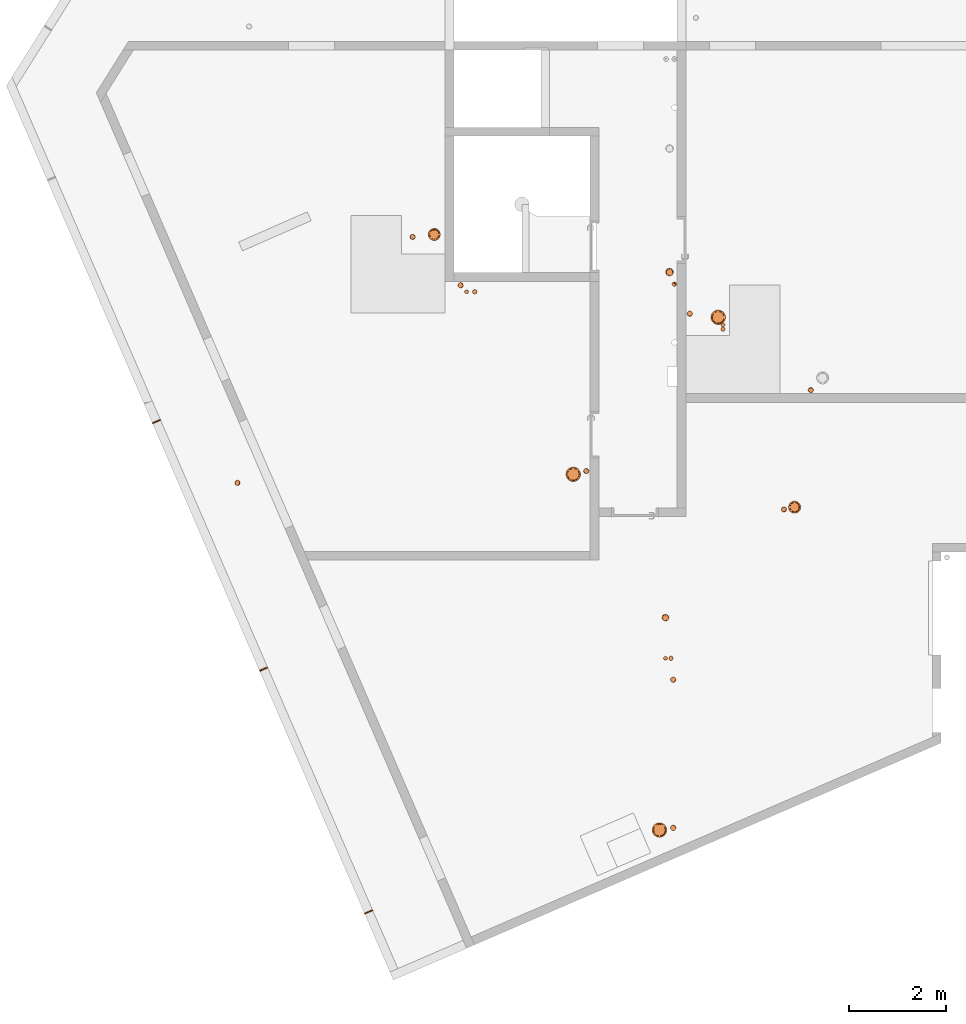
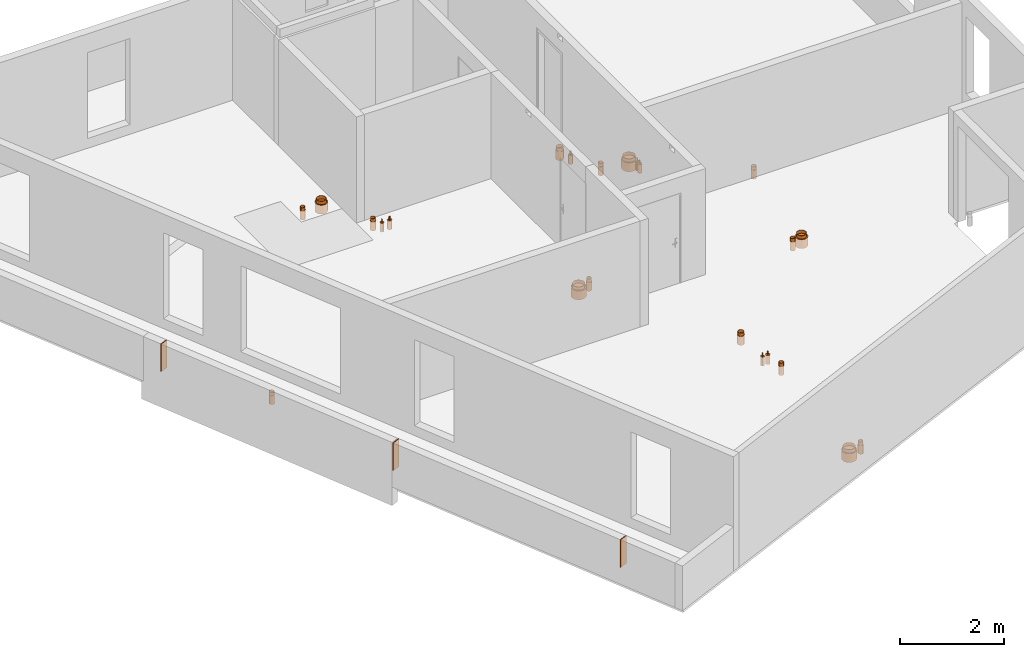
# One storey, part 20 of 28: 26 proxies.
"""IFC2X3 building model written with IfcOpenShell, lengths in centimetres."""

from ifc_helpers import new_model, entity, si_unit, converted_unit, derived_unit, direction, frame, frame_2d, origin, origin_2d_with_axis, place, context, subcontext, project, spatial, rectangle, circle, hollow_circle, extrude, source, transform, mapped, material, type_object, type_shapes, element, save


model = new_model("IFC2X3")

# Units and contexts
model_context = context("Model", 3, precision=0.001, world=origin(), true_north=direction((6.12303176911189e-17, 1.0)))
body_context = subcontext(model_context, "Body", "Model", "MODEL_VIEW")
ifc_project = project(units=[si_unit("LENGTHUNIT", "METRE", prefix="CENTI"), si_unit("AREAUNIT", "SQUARE_METRE"), si_unit("VOLUMEUNIT", "CUBIC_METRE"), converted_unit("PLANEANGLEUNIT", "DEGREE", entity("IfcRatioMeasure", 0.0174532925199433), si_unit("PLANEANGLEUNIT", "RADIAN"), dimensions=[0, 0, 0, 0, 0, 0, 0]), si_unit("MASSUNIT", "GRAM", prefix="KILO"), derived_unit("MASSDENSITYUNIT", [(si_unit("MASSUNIT", "GRAM", prefix="KILO"), 1), (si_unit("LENGTHUNIT", "METRE"), -3)]), si_unit("TIMEUNIT", "SECOND"), si_unit("FREQUENCYUNIT", "HERTZ"), si_unit("THERMODYNAMICTEMPERATUREUNIT", "DEGREE_CELSIUS"), derived_unit("THERMALTRANSMITTANCEUNIT", [(si_unit("MASSUNIT", "GRAM", prefix="KILO"), 1), (si_unit("THERMODYNAMICTEMPERATUREUNIT", "KELVIN"), -1), (si_unit("TIMEUNIT", "SECOND"), -3)]), derived_unit("VOLUMETRICFLOWRATEUNIT", [(si_unit("LENGTHUNIT", "METRE"), 3), (si_unit("TIMEUNIT", "SECOND"), -1)]), si_unit("ELECTRICCURRENTUNIT", "AMPERE"), si_unit("ELECTRICVOLTAGEUNIT", "VOLT"), si_unit("POWERUNIT", "WATT"), si_unit("FORCEUNIT", "NEWTON"), si_unit("ILLUMINANCEUNIT", "LUX"), si_unit("LUMINOUSFLUXUNIT", "LUMEN"), si_unit("LUMINOUSINTENSITYUNIT", "CANDELA"), derived_unit("USERDEFINED", [(si_unit("MASSUNIT", "GRAM", prefix="KILO"), -1), (si_unit("LENGTHUNIT", "METRE"), -2), (si_unit("TIMEUNIT", "SECOND"), 3), (si_unit("LUMINOUSFLUXUNIT", "LUMEN"), 1)]), derived_unit("LINEARVELOCITYUNIT", [(si_unit("LENGTHUNIT", "METRE"), 1), (si_unit("TIMEUNIT", "SECOND"), -1)]), si_unit("PRESSUREUNIT", "PASCAL"), derived_unit("USERDEFINED", [(si_unit("LENGTHUNIT", "METRE"), -2), (si_unit("MASSUNIT", "GRAM", prefix="KILO"), 1), (si_unit("TIMEUNIT", "SECOND"), -2)])], contexts=[model_context])

# Site, building, storey
site_placement = place(None, origin())
site = spatial("IfcSite", under=ifc_project, at=site_placement, Name="Default", CompositionType="ELEMENT")
building_placement = place(site_placement, origin())
building = spatial("IfcBuilding", under=site, at=building_placement, Name="CAGE 03", CompositionType="ELEMENT")
storey_placement = place(building_placement, frame((0.0, 0.0, 1420.0)))
storey = spatial("IfcBuildingStorey", under=building, at=storey_placement, Name="R+5", CompositionType="ELEMENT", Elevation=1420.0)

# Proxies
ifc_material_1 = material(Name="BBGO_Résa")
building_element_proxy_type_1 = type_object("IfcBuildingElementProxyType", Name="J.F.", PredefinedType="NOTDEFINED", material=ifc_material_1)
shared_shape_1 = source(origin(), body_context, "Body", "SweptSolid", [
    extrude(rectangle(XDim=18.0000000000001, YDim=2.00000000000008, at=frame_2d((1.12798659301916e-13, -2.84716694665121e-13), x_axis=(1.0, 0.0))), frame((3496.2645290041, 3327.95984227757, 1460.0), z_axis=(0.0, 0.0, 1.0), x_axis=(0.917772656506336, 0.397106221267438, 0.0)), (0.0, 0.0, 1.0), 64.9999999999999),
])
type_shapes(building_element_proxy_type_1, [shared_shape_1])
proxy_1_placement = place(storey_placement, frame((0.0, 0.0, -1420.0)))
element("IfcBuildingElementProxy", 1, at=proxy_1_placement, inside=storey, type_object=building_element_proxy_type_1, material=ifc_material_1, Name="BBGO-Résa rect et circ:J.F.", ObjectType="J.F.", context=body_context, shape_type="MappedRepresentation", body=[
    mapped(shared_shape_1, transform((0.0, 0.0, 0.0), scale=1.0)),
])
building_element_proxy_type_2 = type_object("IfcBuildingElementProxyType", Name="J.F.", PredefinedType="NOTDEFINED", material=ifc_material_1)
shared_shape_2 = source(origin(), body_context, "Body", "SweptSolid", [
    extrude(rectangle(XDim=18.0000000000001, YDim=2.00000000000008, at=frame_2d((-1.12798659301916e-13, 2.84716694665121e-13), x_axis=(1.0, 0.0))), frame((3279.0474259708, 3829.98148538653, 1460.0), z_axis=(0.0, 0.0, 1.0), x_axis=(0.917772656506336, 0.397106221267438, 0.0)), (0.0, 0.0, 1.0), 64.9999999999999),
])
type_shapes(building_element_proxy_type_2, [shared_shape_2])
proxy_2_placement = place(storey_placement, frame((0.0, 0.0, -1420.0)))
element("IfcBuildingElementProxy", 2, at=proxy_2_placement, inside=storey, type_object=building_element_proxy_type_2, material=ifc_material_1, Name="BBGO-Résa rect et circ:J.F.", ObjectType="J.F.", context=body_context, shape_type="MappedRepresentation", body=[
    mapped(shared_shape_2, transform((0.0, 0.0, 0.0), scale=1.0)),
])
building_element_proxy_type_3 = type_object("IfcBuildingElementProxyType", Name="J.F.", PredefinedType="NOTDEFINED", material=ifc_material_1)
shared_shape_3 = source(origin(), body_context, "Body", "SweptSolid", [
    extrude(rectangle(XDim=1.99999999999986, YDim=18.0, at=origin_2d_with_axis()), frame((3057.26360139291, 4342.5575140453, 1460.0), z_axis=(0.0, 0.0, 1.0), x_axis=(0.397106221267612, -0.917772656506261, 0.0)), (0.0, 0.0, 1.0), 64.9999999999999),
])
type_shapes(building_element_proxy_type_3, [shared_shape_3])
proxy_3_placement = place(storey_placement, frame((0.0, 0.0, -1420.0)))
element("IfcBuildingElementProxy", 3, at=proxy_3_placement, inside=storey, type_object=building_element_proxy_type_3, material=ifc_material_1, Name="BBGO-Résa rect et circ:J.F.", ObjectType="J.F.", context=body_context, shape_type="MappedRepresentation", body=[
    mapped(shared_shape_3, transform((0.0, 0.0, 0.0), scale=1.0)),
])
ifc_material_2 = material(Name="Conduit VMC")
building_element_proxy_type_4 = type_object("IfcBuildingElementProxyType", Name="CFO235 P210", PredefinedType="NOTDEFINED", material=ifc_material_2)
shared_shape_4 = source(origin(), body_context, "Body", "SweptSolid", [
    extrude(circle(Radius=12.5, at=frame_2d((0.0, -2.01943071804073e-14), x_axis=(1.0, 0.0))), frame((0.0, 0.0, -21.0)), (0.0, 0.0, 1.0), 21.0),
    extrude(hollow_circle(Radius=10.0, WallThickness=0.5, at=frame_2d((0.0, -1.61554457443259e-14), x_axis=(1.0, 0.0))), frame((0.0, 0.0, -21.0)), (0.0, 0.0, 1.0), 28.5),
])
type_shapes(building_element_proxy_type_4, [shared_shape_4])
for number, where, name in (
    (4, (4377.42366313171, 4165.21831435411, 0.0), "Galette - Résa - PVC4:CFO235 P210"),
    (5, (3632.02185080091, 4729.49517597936, 0.0), "Galette - Résa - PVC4:CFO235 P210"),
):
    element("IfcBuildingElementProxy", number, at=place(storey_placement, frame(where)), inside=storey, type_object=building_element_proxy_type_4, material=ifc_material_2, Name=name, ObjectType="CFO235 P210", context=body_context, shape_type="MappedRepresentation", body=[
        mapped(shared_shape_4, transform((0.0, 0.0, 0.0), scale=1.0)),
    ])
ifc_material_3 = material(Name="Conduit EP")
building_element_proxy_type_5 = type_object("IfcBuildingElementProxyType", Name="EP 101", PredefinedType="NOTDEFINED", material=ifc_material_3)
shared_shape_5 = source(origin(), body_context, "Body", "SweptSolid", [
    extrude(circle(Radius=5.5, at=frame_2d((0.0, -8.88549515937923e-15), x_axis=(1.0, 0.0))), frame((0.0, 0.0, -21.0)), (0.0, 0.0, 1.0), 21.0),
    extrude(hollow_circle(Radius=5.0, WallThickness=0.25, at=frame_2d((0.0, -8.07772287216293e-15), x_axis=(1.0, 0.0))), frame((0.0, 0.0, -21.0)), (0.0, 0.0, 1.0), 28.5),
])
type_shapes(building_element_proxy_type_5, [shared_shape_5])
proxy_4_placement = place(storey_placement, frame((3224.88856262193, 4215.66383157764, 0.0)))
element("IfcBuildingElementProxy", 6, at=proxy_4_placement, inside=storey, type_object=building_element_proxy_type_5, material=ifc_material_3, Name="Galette - Résa - PVC4:EP 101", ObjectType="EP 101", context=body_context, shape_type="MappedRepresentation", body=[
    mapped(shared_shape_5, transform((0.0, 0.0, 0.0), scale=1.0)),
])
building_element_proxy_type_6 = type_object("IfcBuildingElementProxyType", Name="CFO160 P150", PredefinedType="NOTDEFINED", material=ifc_material_3)
shared_shape_6 = source(origin(), body_context, "Body", "SweptSolid", [
    extrude(circle(Radius=8.0, at=frame_2d((0.0, -1.29243565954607e-14), x_axis=(1.0, 0.0))), frame((0.0, 0.0, -21.0)), (0.0, 0.0, 1.0), 21.0),
    extrude(hollow_circle(Radius=7.0, WallThickness=0.25, at=frame_2d((0.0, -1.13088120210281e-14), x_axis=(1.0, 0.0))), frame((0.0, 0.0, -21.0)), (0.0, 0.0, 1.0), 28.5),
])
type_shapes(building_element_proxy_type_6, [shared_shape_6])
proxy_5_placement = place(storey_placement, frame((4118.7448452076, 4651.62070743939, 0.0)))
element("IfcBuildingElementProxy", 7, at=proxy_5_placement, inside=storey, type_object=building_element_proxy_type_6, material=ifc_material_3, Name="Galette - Résa - PVC4:CFO160 P150", ObjectType="CFO160 P150", context=body_context, shape_type="MappedRepresentation", body=[
    mapped(shared_shape_6, transform((0.0, 0.0, 0.0), scale=1.0)),
])
ifc_material_4 = material(Name="Conduit EU")
building_element_proxy_type_7 = type_object("IfcBuildingElementProxyType", Name="CFO125 P110", PredefinedType="NOTDEFINED", material=ifc_material_4)
shared_shape_7 = source(origin(), body_context, "Body", "SweptSolid", [
    extrude(circle(Radius=5.5, at=frame_2d((0.0, -8.88549515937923e-15), x_axis=(1.0, 0.0))), frame((0.0, 0.0, -21.0)), (0.0, 0.0, 1.0), 21.0),
    extrude(hollow_circle(Radius=5.0, WallThickness=0.25, at=frame_2d((0.0, -8.07772287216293e-15), x_axis=(1.0, 0.0))), frame((0.0, 0.0, -21.0)), (0.0, 0.0, 1.0), 28.5),
])
type_shapes(building_element_proxy_type_7, [shared_shape_7])
for number, where, name in (
    (8, (4160.59448652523, 4565.58649100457, 0.0), "Galette - Résa - PVC4:CFO125 P110"),
    (9, (4410.96893083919, 4407.5703164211, 0.0), "Galette - Résa - PVC4:CFO125 P110"),
):
    element("IfcBuildingElementProxy", number, at=place(storey_placement, frame(where)), inside=storey, type_object=building_element_proxy_type_7, material=ifc_material_4, Name=name, ObjectType="CFO125 P110", context=body_context, shape_type="MappedRepresentation", body=[
        mapped(shared_shape_7, transform((0.0, 0.0, 0.0), scale=1.0)),
    ])
proxy_6_placement = place(storey_placement, frame((4355.3205278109, 4160.71828039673, 0.0), z_axis=(0.0, 0.0, 1.0), x_axis=(0.0, -1.0, 0.0)))
element("IfcBuildingElementProxy", 10, at=proxy_6_placement, inside=storey, type_object=building_element_proxy_type_7, material=ifc_material_4, Name="Galette - Résa - PVC4:CFO125 P110", ObjectType="CFO125 P110", context=body_context, shape_type="MappedRepresentation", body=[
    mapped(shared_shape_7, transform((0.0, 0.0, 0.0), scale=1.0)),
])
for number, where, name in (
    (11, (4126.31717575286, 3808.43638947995, 0.0), "Galette - Résa - PVC4:CFO125 P110"),
    (12, (4126.31850092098, 3502.00058207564, 0.0), "Galette - Résa - PVC4:CFO125 P110"),
    (13, (3946.58141975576, 4239.9111842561, 0.0), "Galette - Résa - PVC4:CFO125 P110"),
    (14, (3686.59725003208, 4624.40274501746, 0.0), "Galette - Résa - PVC4:CFO125 P110"),
    (15, (3587.36582014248, 4724.25412243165, 0.0), "Galette - Résa - PVC4:CFO125 P110"),
):
    element("IfcBuildingElementProxy", number, at=place(storey_placement, frame(where)), inside=storey, type_object=building_element_proxy_type_7, material=ifc_material_4, Name=name, ObjectType="CFO125 P110", context=body_context, shape_type="MappedRepresentation", body=[
        mapped(shared_shape_7, transform((0.0, 0.0, 0.0), scale=1.0)),
    ])
ifc_material_5 = material(Name="Circuit ECS Retour")
building_element_proxy_type_8 = type_object("IfcBuildingElementProxyType", Name="CFO100 P80", PredefinedType="NOTDEFINED", material=ifc_material_5)
shared_shape_8 = source(origin(), body_context, "Body", "SweptSolid", [
    extrude(circle(Radius=4.0, at=frame_2d((0.0, -6.46217829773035e-15), x_axis=(1.0, 0.0))), frame((0.0, 0.0, -21.0)), (0.0, 0.0, 1.0), 21.0),
    extrude(hollow_circle(Radius=1.0, WallThickness=0.0500000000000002, at=frame_2d((0.0, -1.61554457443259e-15), x_axis=(1.0, 0.0))), frame((0.0, 0.0, -21.0)), (0.0, 0.0, 1.0), 28.5),
])
type_shapes(building_element_proxy_type_8, [shared_shape_8])
proxy_7_placement = place(storey_placement, frame((4229.24341339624, 4542.63986566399, 0.0)))
element("IfcBuildingElementProxy", 16, at=proxy_7_placement, inside=storey, type_object=building_element_proxy_type_8, material=ifc_material_5, Name="Galette - Résa - PVC4:CFO100 P80", ObjectType="CFO100 P80", context=body_context, shape_type="MappedRepresentation", body=[
    mapped(shared_shape_8, transform((0.0, 0.0, 0.0), scale=1.0)),
])
proxy_8_placement = place(storey_placement, frame((4110.36801673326, 3852.69002455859, 0.0), z_axis=(0.0, 0.0, 1.0), x_axis=(0.0, -1.0, 0.0)))
element("IfcBuildingElementProxy", 17, at=proxy_8_placement, inside=storey, type_object=building_element_proxy_type_8, material=ifc_material_5, Name="Galette - Résa - PVC4:CFO100 P80", ObjectType="CFO100 P80", context=body_context, shape_type="MappedRepresentation", body=[
    mapped(shared_shape_8, transform((0.0, 0.0, 0.0), scale=1.0)),
])
proxy_9_placement = place(storey_placement, frame((3698.87015670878, 4610.91348814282, 0.0)))
element("IfcBuildingElementProxy", 18, at=proxy_9_placement, inside=storey, type_object=building_element_proxy_type_8, material=ifc_material_5, Name="Galette - Résa - PVC4:CFO100 P80", ObjectType="CFO100 P80", context=body_context, shape_type="MappedRepresentation", body=[
    mapped(shared_shape_8, transform((0.0, 0.0, 0.0), scale=1.0)),
])
ifc_material_6 = material(Name="Circuit ECS Aller")
building_element_proxy_type_9 = type_object("IfcBuildingElementProxyType", Name="CFO100 P90", PredefinedType="NOTDEFINED", material=ifc_material_6)
shared_shape_9 = source(origin(), body_context, "Body", "SweptSolid", [
    extrude(circle(Radius=4.5, at=frame_2d((0.0, -7.26995058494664e-15), x_axis=(1.0, 0.0))), frame((0.0, 0.0, -21.0)), (0.0, 0.0, 1.0), 21.0),
    extrude(hollow_circle(Radius=1.6, WallThickness=0.05, at=frame_2d((0.0, -2.58487131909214e-15), x_axis=(1.0, 0.0))), frame((0.0, 0.0, -21.0)), (0.0, 0.0, 1.0), 28.5),
])
type_shapes(building_element_proxy_type_9, [shared_shape_9])
proxy_10_placement = place(storey_placement, frame((4229.24341339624, 4533.58954501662, 0.0)))
element("IfcBuildingElementProxy", 19, at=proxy_10_placement, inside=storey, type_object=building_element_proxy_type_9, material=ifc_material_6, Name="Galette - Résa - PVC4:CFO100 P90", ObjectType="CFO100 P90", context=body_context, shape_type="MappedRepresentation", body=[
    mapped(shared_shape_9, transform((0.0, 0.0, 0.0), scale=1.0)),
])
proxy_11_placement = place(storey_placement, frame((4121.86801673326, 3852.69002455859, 0.0), z_axis=(0.0, 0.0, 1.0), x_axis=(0.0, -1.0, 0.0)))
element("IfcBuildingElementProxy", 20, at=proxy_11_placement, inside=storey, type_object=building_element_proxy_type_9, material=ifc_material_6, Name="Galette - Résa - PVC4:CFO100 P90", ObjectType="CFO100 P90", context=body_context, shape_type="MappedRepresentation", body=[
    mapped(shared_shape_9, transform((0.0, 0.0, 0.0), scale=1.0)),
])
proxy_12_placement = place(storey_placement, frame((3715.82551820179, 4610.91348814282, 0.0)))
element("IfcBuildingElementProxy", 21, at=proxy_12_placement, inside=storey, type_object=building_element_proxy_type_9, material=ifc_material_6, Name="Galette - Résa - PVC4:CFO100 P90", ObjectType="CFO100 P90", context=body_context, shape_type="MappedRepresentation", body=[
    mapped(shared_shape_9, transform((0.0, 0.0, 0.0), scale=1.0)),
])
building_element_proxy_type_10 = type_object("IfcBuildingElementProxyType", Name="CFO285 P260", PredefinedType="NOTDEFINED", material=ifc_material_2)
shared_shape_10 = source(origin(), body_context, "Body", "SweptSolid", [
    extrude(circle(Radius=15.0, at=frame_2d((0.0, -2.42331686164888e-14), x_axis=(1.0, 0.0))), frame((0.0, 0.0, -21.0)), (0.0, 0.0, 1.0), 21.0),
    extrude(hollow_circle(Radius=12.5, WallThickness=0.499999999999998, at=frame_2d((0.0, -2.01943071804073e-14), x_axis=(1.0, 0.0))), frame((0.0, 0.0, -21.0)), (0.0, 0.0, 1.0), 28.5),
])
type_shapes(building_element_proxy_type_10, [shared_shape_10])
for number, where, name in (
    (22, (4219.38313544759, 4558.04776713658, 0.0), "Galette - Résa - PVC4:CFO285 P260"),
    (23, (4097.97968134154, 3497.41821904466, 0.0), "Galette - Résa - PVC4:CFO285 P260"),
    (24, (3919.58915427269, 4233.21735522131, 0.0), "Galette - Résa - PVC4:CFO285 P260"),
):
    element("IfcBuildingElementProxy", number, at=place(storey_placement, frame(where)), inside=storey, type_object=building_element_proxy_type_10, material=ifc_material_2, Name=name, ObjectType="CFO285 P260", context=body_context, shape_type="MappedRepresentation", body=[
        mapped(shared_shape_10, transform((0.0, 0.0, 0.0), scale=1.0)),
    ])
building_element_proxy_type_11 = type_object("IfcBuildingElementProxyType", Name="CFO140 P135", PredefinedType="NOTDEFINED", material=ifc_material_2)
shared_shape_11 = source(origin(), body_context, "Body", "SweptSolid", [
    extrude(circle(Radius=7.0, at=frame_2d((0.0, -1.13088120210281e-14), x_axis=(1.0, 0.0))), frame((0.0, 0.0, -21.0)), (0.0, 0.0, 1.0), 21.0),
    extrude(hollow_circle(Radius=6.25, WallThickness=0.25, at=frame_2d((0.0, -1.00971535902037e-14), x_axis=(1.0, 0.0))), frame((0.0, 0.0, -21.0)), (0.0, 0.0, 1.0), 28.5),
])
type_shapes(building_element_proxy_type_11, [shared_shape_11])
proxy_13_placement = place(storey_placement, frame((4110.24717054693, 3936.71833808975, 0.0)))
element("IfcBuildingElementProxy", 25, at=proxy_13_placement, inside=storey, type_object=building_element_proxy_type_11, material=ifc_material_2, Name="Galette - Résa - PVC4:CFO140 P135", ObjectType="CFO140 P135", context=body_context, shape_type="MappedRepresentation", body=[
    mapped(shared_shape_11, transform((0.0, 0.0, 0.0), scale=1.0)),
])
ifc_material_7 = material(Name="Circuit EF")
building_element_proxy_type_12 = type_object("IfcBuildingElementProxyType", Name="EF 41", PredefinedType="NOTDEFINED", material=ifc_material_7)
shared_shape_12 = source(origin(), body_context, "Body", "SweptSolid", [
    extrude(circle(Radius=4.5, at=frame_2d((0.0, -7.26995058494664e-15), x_axis=(1.0, 0.0))), frame((0.0, 0.0, -21.0)), (0.0, 0.0, 1.0), 21.0),
    extrude(hollow_circle(Radius=2.2, WallThickness=0.449999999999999, at=frame_2d((0.0, -3.55419806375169e-15), x_axis=(1.0, 0.0))), frame((0.0, 0.0, -21.0)), (0.0, 0.0, 1.0), 28.5),
])
type_shapes(building_element_proxy_type_12, [shared_shape_12])
proxy_14_placement = place(storey_placement, frame((4128.59495990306, 4626.63859506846, 0.0)))
element("IfcBuildingElementProxy", 26, at=proxy_14_placement, inside=storey, type_object=building_element_proxy_type_12, material=ifc_material_7, Name="Galette - Résa - PVC4:EF 41", ObjectType="EF 41", context=body_context, shape_type="MappedRepresentation", body=[
    mapped(shared_shape_12, transform((0.0, 0.0, 0.0), scale=1.0)),
])

save(model, "model.ifc")
